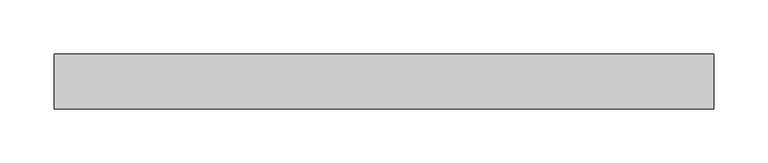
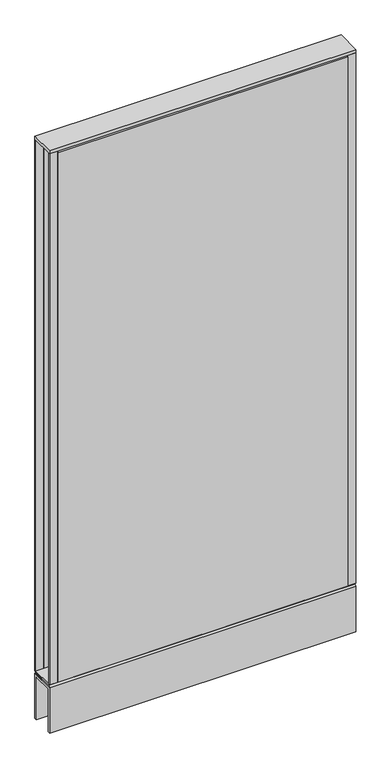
"""IFC4 building model written with IfcOpenShell, lengths in millimetres: furniture geometry, Steelcase - Kick Solutions - Panel - Monolithic - Tackable Acoustical : 48H x 24W."""

from ifc_helpers import new_model, si_unit, frame, origin, place, context, project, spatial, polyline, outline, extrude, source, transform, mapped, element, save


def furniture_2351ee87(model_context):
    return source(origin(), model_context, "Body", "SweptSolid", [
        extrude(outline(polyline([(0.0, 101.7169049), (-3.1750015, 101.7169049), (-3.1750015, 1219.3169018), (0.0, 1216.2357466), (0.0, 101.7169049)])), frame((15.8749996, 0.0, 0.0), z_axis=(1.0, 0.0, 0.0), x_axis=(0.0, 1.0, 0.0)), (0.0, 0.0, 1.0), 577.8500008),
        extrude(outline(polyline([(-50.8000015, 101.7169049), (-50.8000015, 1216.2357466), (-47.625, 1219.3169018), (-47.625, 101.7169049), (-50.8000015, 101.7169049)])), frame((15.8749996, 0.0, 0.0), z_axis=(1.0, 0.0, 0.0), x_axis=(0.0, 1.0, 0.0)), (0.0, 0.0, 1.0), 577.8500008),
        extrude(outline(polyline([(609.6, -3.1750015), (593.7250004, -3.1750015), (593.7250004, 0.0), (609.6, 0.0), (609.6, -3.1750015)])), frame((0.0, 0.0, 101.7169049), z_axis=(0.0, 0.0, 1.0), x_axis=(1.0, 0.0, 0.0)), (0.0, 0.0, 1.0), 1117.599997),
        extrude(outline(polyline([(15.8749996, -50.8000015), (0.0, -50.8000015), (0.0, -47.625), (15.8749996, -47.625), (15.8749996, -50.8000015)])), frame((0.0, 0.0, 101.7169049), z_axis=(0.0, 0.0, 1.0), x_axis=(1.0, 0.0, 0.0)), (0.0, 0.0, 1.0), 1117.599997),
        extrude(outline(polyline([(-50.7995075, 101.7169049), (-0.000494, 101.7169049), (-3.0583512, 98.5421458), (-47.7416503, 98.5421458), (-50.7995075, 101.7169049)])), frame((0.0, 0.0, 0.0), z_axis=(1.0, 0.0, 0.0), x_axis=(0.0, 1.0, 0.0)), (0.0, 0.0, 1.0), 609.6),
        extrude(outline(polyline([(609.6, 0.0), (609.6, -50.8000015), (0.0, -50.8000015), (0.0, 0.0), (609.6, 0.0)])), frame((0.0, 0.0, 1219.3169018), z_axis=(0.0, 0.0, 1.0), x_axis=(1.0, 0.0, 0.0)), (0.0, 0.0, 1.0), 6.35),
        extrude(outline(polyline([(15.8749996, -3.1750015), (0.0, -3.1750015), (0.0, 0.0), (15.8749996, 0.0), (15.8749996, -3.1750015)])), frame((0.0, 0.0, 101.7169049), z_axis=(0.0, 0.0, 1.0), x_axis=(1.0, 0.0, 0.0)), (0.0, 0.0, 1.0), 1117.599997),
        extrude(outline(polyline([(609.6, -50.8000015), (593.7250004, -50.8000015), (593.7250004, -47.625), (609.6, -47.625), (609.6, -50.8000015)])), frame((0.0, 0.0, 101.7169049), z_axis=(0.0, 0.0, 1.0), x_axis=(1.0, 0.0, 0.0)), (0.0, 0.0, 1.0), 1117.599997),
        extrude(outline(polyline([(-50.8000015, 95.3668927), (-47.6247484, 98.5421458), (-3.1752531, 98.5421458), (0.0, 95.3668927), (-50.8000015, 95.3668927)])), frame((0.0, 0.0, 0.0), z_axis=(1.0, 0.0, 0.0), x_axis=(0.0, 1.0, 0.0)), (0.0, 0.0, 1.0), 609.6),
        extrude(outline(polyline([(0.0, 0.0), (-5.08, 0.0), (-5.08, 90.2869018), (-45.7200015, 90.2869018), (-45.7200015, 0.0), (-50.8000015, 0.0), (-50.8000015, 95.3669018), (0.0, 95.3669018), (0.0, 0.0)])), frame((0.0, 0.0, 0.0), z_axis=(1.0, 0.0, 0.0), x_axis=(0.0, 1.0, 0.0)), (0.0, 0.0, 1.0), 609.6),
    ])


if __name__ == "__main__":
    model = new_model("IFC4")
    model_context = context("Model", 3, world=origin())
    ifc_project = project(units=[si_unit("LENGTHUNIT", "METRE", prefix="MILLI")], contexts=[model_context])
    site = spatial("IfcSite", under=ifc_project)
    building = spatial("IfcBuilding", under=site)
    placement = place(None, origin())
    furniture_shape = furniture_2351ee87(model_context)
    element("IfcFurniture", 1, ObjectType="Steelcase - Kick Solutions - Panel - Monolithic - Tackable Acoustical : 48H x 24W", at=placement, inside=building, context=model_context, shape_type="MappedRepresentation", body=[
        mapped(furniture_shape, transform((0.0, 0.0, 0.0), x_axis=(1.0, 0.0, 0.0), y_axis=(0.0, 1.0, 0.0), z_axis=(0.0, 0.0, 1.0))),
    ])
    save(model, "model.ifc")
